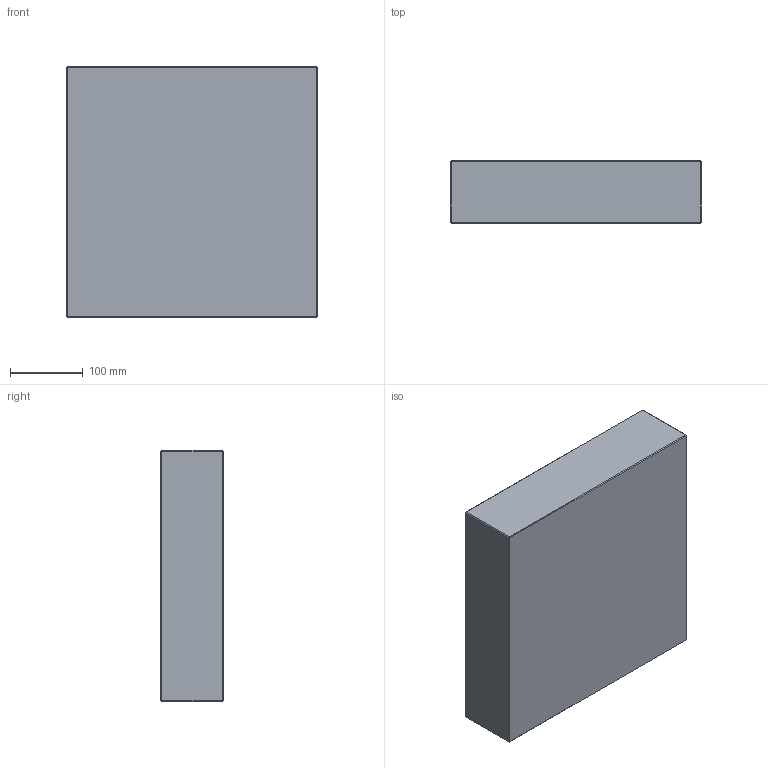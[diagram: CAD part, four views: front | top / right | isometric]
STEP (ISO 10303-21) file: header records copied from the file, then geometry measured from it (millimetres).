
FILE_DESCRIPTION (( 'STEP AP214' ), '1' );
FILE_NAME ('PC-P-346x346x86.STEP', '2020-04-01T10:02:22', ( 'August' ), ( '' ), 'SwSTEP 2.0', 'SolidWorks 2018', '' );
FILE_SCHEMA (( 'AUTOMOTIVE_DESIGN' ));
Length unit declared in the file: millimetre
Products named in the file (1): PC-P-346x346x86
Bounding box: 346 x 86 x 346 mm (x, y, z)
Volume: 10294025.3 mm3; surface area: 356630 mm2
Topology: 1 solids, 1 shells, 26 faces, 48 edges, 24 vertices
Faces by surface type: plane 26
Entity records: 634 total; most frequent: DIRECTION 102, CARTESIAN_POINT 99, ORIENTED_EDGE 96, LINE 48, EDGE_CURVE 48, VECTOR 48, AXIS2_PLACEMENT_3D 27, FACE_OUTER_BOUND 26
